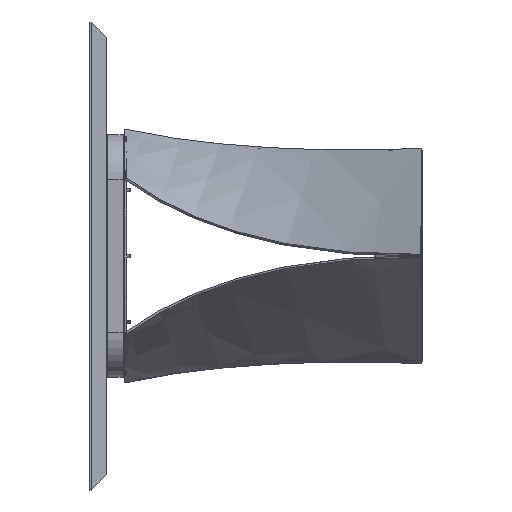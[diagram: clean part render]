
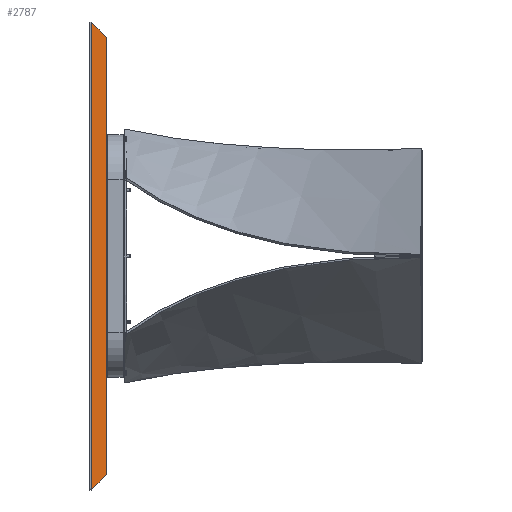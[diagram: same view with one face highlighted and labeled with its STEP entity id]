
A CAD part, left-side view. The second image highlights one B-rep face of the part: STEP entity #2787.
In plain terms, the highlighted planar face has unit normal (-0.707, -0.707, 0).
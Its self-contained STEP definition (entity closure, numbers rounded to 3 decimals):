
#487 = ORIENTED_EDGE ( 'NONE', *, *, #11031, .T. ) ;
#1006 = CARTESIAN_POINT ( 'NONE',  ( -965.293, 0.293, 495. ) ) ;
#1626 = CARTESIAN_POINT ( 'NONE',  ( -1000., 35., -530. ) ) ;
#1998 = VERTEX_POINT ( 'NONE', #4715 ) ;
#2373 = EDGE_CURVE ( 'NONE', #3796, #1998, #6202, .T. ) ;
#2695 = CARTESIAN_POINT ( 'NONE',  ( -998.536, 33.536, 528.536 ) ) ;
#2787 = ADVANCED_FACE ( 'NONE', ( #9360 ), #10738, .F. ) ;
#3265 = VECTOR ( 'NONE', #7866, 1000. ) ;
#3414 = ORIENTED_EDGE ( 'NONE', *, *, #22293, .T. ) ;
#3796 = VERTEX_POINT ( 'NONE', #2695 ) ;
#3950 = EDGE_CURVE ( 'NONE', #13036, #5120, #14814, .T. ) ;
#4715 = CARTESIAN_POINT ( 'NONE',  ( -1000., 35., 525. ) ) ;
#5103 = CARTESIAN_POINT ( 'NONE',  ( -965.293, 0.293, 495.293 ) ) ;
#5120 = VERTEX_POINT ( 'NONE', #6887 ) ;
#5229 = CARTESIAN_POINT ( 'NONE',  ( -1000., 35., -530. ) ) ;
#5878 = EDGE_LOOP ( 'NONE', ( #6109, #487, #17134, #19094, #9101, #3414 ) ) ;
#6109 = ORIENTED_EDGE ( 'NONE', *, *, #3950, .T. ) ;
#6202 =( BOUNDED_CURVE ( )  B_SPLINE_CURVE ( 3, ( #24412, #22536, #7501, #21017 ),
 .UNSPECIFIED., .F., .F. ) 
 B_SPLINE_CURVE_WITH_KNOTS ( ( 4, 4 ),
 ( 2.356, 3.142 ),
 .UNSPECIFIED. ) 
 CURVE ( )  GEOMETRIC_REPRESENTATION_ITEM ( )  RATIONAL_B_SPLINE_CURVE ( ( 1., 0.949, 0.949, 1. ) ) 
 REPRESENTATION_ITEM ( '' )  );
#6328 = AXIS2_PLACEMENT_3D ( 'NONE', #16794, #18574, #9099 ) ;
#6887 = CARTESIAN_POINT ( 'NONE',  ( -965.293, 0.293, -495.293 ) ) ;
#7501 = CARTESIAN_POINT ( 'NONE',  ( -1000., 35., 526.344 ) ) ;
#7578 = VECTOR ( 'NONE', #20706, 1000. ) ;
#7756 = LINE ( 'NONE', #15435, #3265 ) ;
#7849 = CARTESIAN_POINT ( 'NONE',  ( -1000., 35., -525. ) ) ;
#7866 = DIRECTION ( 'NONE',  ( 0.577, -0.577, -0.577 ) ) ;
#8582 = CARTESIAN_POINT ( 'NONE',  ( -998.536, 33.536, -528.536 ) ) ;
#9084 = LINE ( 'NONE', #1006, #20662 ) ;
#9099 = DIRECTION ( 'NONE',  ( 0., 0., 1. ) ) ;
#9101 = ORIENTED_EDGE ( 'NONE', *, *, #18610, .F. ) ;
#9206 = LINE ( 'NONE', #1626, #7578 ) ;
#9360 = FACE_OUTER_BOUND ( 'NONE', #5878, .T. ) ;
#9726 = EDGE_CURVE ( 'NONE', #3796, #24585, #7756, .T. ) ;
#10738 = PLANE ( 'NONE',  #6328 ) ;
#11031 = EDGE_CURVE ( 'NONE', #5120, #24585, #9084, .T. ) ;
#12941 = DIRECTION ( 'NONE',  ( 0.577, -0.577, 0.577 ) ) ;
#13036 = VERTEX_POINT ( 'NONE', #16630 ) ;
#14142 = CARTESIAN_POINT ( 'NONE',  ( -1000., 35., -526.344 ) ) ;
#14814 = LINE ( 'NONE', #5229, #22113 ) ;
#15435 = CARTESIAN_POINT ( 'NONE',  ( -646.667, -318.333, 176.667 ) ) ;
#16630 = CARTESIAN_POINT ( 'NONE',  ( -998.536, 33.536, -528.536 ) ) ;
#16780 = DIRECTION ( 'NONE',  ( 0., 0., 1. ) ) ;
#16794 = CARTESIAN_POINT ( 'NONE',  ( -1000., 35., -530. ) ) ;
#17134 = ORIENTED_EDGE ( 'NONE', *, *, #9726, .F. ) ;
#18246 = VERTEX_POINT ( 'NONE', #7849 ) ;
#18574 = DIRECTION ( 'NONE',  ( 0.707, 0.707, 0. ) ) ;
#18610 = EDGE_CURVE ( 'NONE', #18246, #1998, #9206, .T. ) ;
#19094 = ORIENTED_EDGE ( 'NONE', *, *, #2373, .T. ) ;
#20662 = VECTOR ( 'NONE', #16780, 1000. ) ;
#20706 = DIRECTION ( 'NONE',  ( 0., 0., 1. ) ) ;
#21017 = CARTESIAN_POINT ( 'NONE',  ( -1000., 35., 525. ) ) ;
#22086 = CARTESIAN_POINT ( 'NONE',  ( -999.486, 34.486, -527.585 ) ) ;
#22113 = VECTOR ( 'NONE', #12941, 1000. ) ;
#22293 = EDGE_CURVE ( 'NONE', #18246, #13036, #22500, .T. ) ;
#22500 =( BOUNDED_CURVE ( )  B_SPLINE_CURVE ( 3, ( #23612, #14142, #22086, #8582 ),
 .UNSPECIFIED., .F., .F. ) 
 B_SPLINE_CURVE_WITH_KNOTS ( ( 4, 4 ),
 ( 3.142, 3.927 ),
 .UNSPECIFIED. ) 
 CURVE ( )  GEOMETRIC_REPRESENTATION_ITEM ( )  RATIONAL_B_SPLINE_CURVE ( ( 1., 0.949, 0.949, 1. ) ) 
 REPRESENTATION_ITEM ( '' )  );
#22536 = CARTESIAN_POINT ( 'NONE',  ( -999.486, 34.486, 527.585 ) ) ;
#23612 = CARTESIAN_POINT ( 'NONE',  ( -1000., 35., -525. ) ) ;
#24412 = CARTESIAN_POINT ( 'NONE',  ( -998.536, 33.536, 528.536 ) ) ;
#24585 = VERTEX_POINT ( 'NONE', #5103 ) ;
